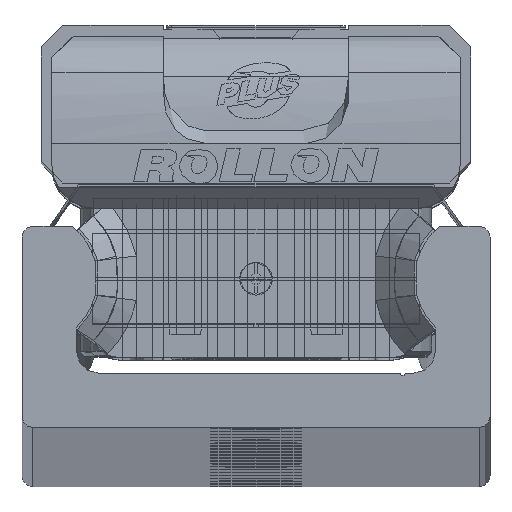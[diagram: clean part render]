
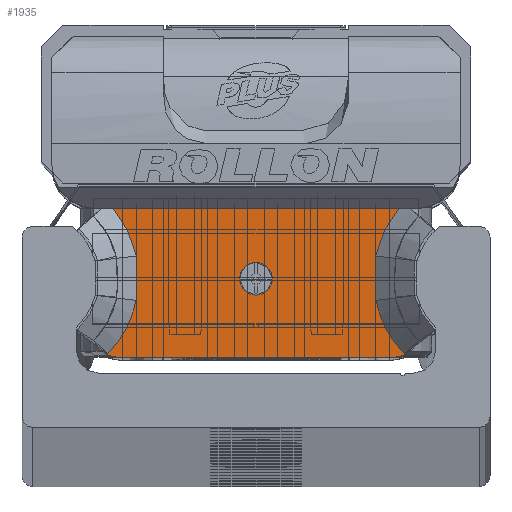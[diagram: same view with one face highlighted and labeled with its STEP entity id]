
A CAD part, top view. The second image highlights one B-rep face of the part: STEP entity #1935.
In plain terms, the highlighted planar face has unit normal (0, 0, 1) as drawn and (0, 0, -1) by its records, which use the part's own axes.
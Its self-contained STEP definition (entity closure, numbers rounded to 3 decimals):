
#1935 = ADVANCED_FACE( '', ( #4132, #4133 ), #4134, .F. );
#4132 = FACE_BOUND( '', #6686, .T. );
#4133 = FACE_OUTER_BOUND( '', #6687, .T. );
#4134 = PLANE( '', #6688 );
#6686 = EDGE_LOOP( '', ( #12005 ) );
#6687 = EDGE_LOOP( '', ( #12006, #12007, #12008, #12009, #12010, #12011, #12012, #12013, #12014, #12015, #12016, #12017 ) );
#6688 = AXIS2_PLACEMENT_3D( '', #12018, #12019, #12020 );
#12005 = ORIENTED_EDGE( '', *, *, #14206, .T. );
#12006 = ORIENTED_EDGE( '', *, *, #15600, .T. );
#12007 = ORIENTED_EDGE( '', *, *, #15612, .F. );
#12008 = ORIENTED_EDGE( '', *, *, #13959, .T. );
#12009 = ORIENTED_EDGE( '', *, *, #14477, .F. );
#12010 = ORIENTED_EDGE( '', *, *, #13852, .T. );
#12011 = ORIENTED_EDGE( '', *, *, #14278, .T. );
#12012 = ORIENTED_EDGE( '', *, *, #15613, .T. );
#12013 = ORIENTED_EDGE( '', *, *, #13868, .T. );
#12014 = ORIENTED_EDGE( '', *, *, #14532, .T. );
#12015 = ORIENTED_EDGE( '', *, *, #14589, .T. );
#12016 = ORIENTED_EDGE( '', *, *, #14108, .T. );
#12017 = ORIENTED_EDGE( '', *, *, #14178, .T. );
#12018 = CARTESIAN_POINT( '', ( 14.9, 7.35, -13.25 ) );
#12019 = DIRECTION( '', ( 0., 0., 1. ) );
#12020 = DIRECTION( '', ( 1., 0., 0. ) );
#13852 = EDGE_CURVE( '', #16362, #16456, #16458, .T. );
#13868 = EDGE_CURVE( '', #16484, #16481, #16485, .T. );
#13959 = EDGE_CURVE( '', #16644, #16642, #16645, .T. );
#14108 = EDGE_CURVE( '', #16903, #16901, #16904, .T. );
#14178 = EDGE_CURVE( '', #16901, #17023, #17025, .T. );
#14206 = EDGE_CURVE( '', #17071, #17071, #17072, .T. );
#14278 = EDGE_CURVE( '', #16456, #17183, #17185, .T. );
#14477 = EDGE_CURVE( '', #16362, #16642, #17498, .T. );
#14532 = EDGE_CURVE( '', #16481, #17582, #17584, .T. );
#14589 = EDGE_CURVE( '', #17582, #16903, #17671, .T. );
#15600 = EDGE_CURVE( '', #17023, #16338, #19078, .T. );
#15612 = EDGE_CURVE( '', #16644, #16338, #19092, .T. );
#15613 = EDGE_CURVE( '', #17183, #16484, #19093, .T. );
#16338 = VERTEX_POINT( '', #19999 );
#16362 = VERTEX_POINT( '', #20032 );
#16456 = VERTEX_POINT( '', #20151 );
#16458 = B_SPLINE_CURVE_WITH_KNOTS( '', 1, ( #20154, #20155 ), .UNSPECIFIED., .F., .F., ( 2, 2 ), ( 0., 1. ), .UNSPECIFIED. );
#16481 = VERTEX_POINT( '', #20189 );
#16484 = VERTEX_POINT( '', #20195 );
#16485 = B_SPLINE_CURVE_WITH_KNOTS( '', 2, ( #20196, #20197, #20198, #20199, #20200 ), .UNSPECIFIED., .F., .F., ( 3, 2, 3 ), ( 0., 0.5, 0.868 ), .UNSPECIFIED. );
#16642 = VERTEX_POINT( '', #20406 );
#16644 = VERTEX_POINT( '', #20409 );
#16645 = LINE( '', #20410, #20411 );
#16901 = VERTEX_POINT( '', #20728 );
#16903 = VERTEX_POINT( '', #20731 );
#16904 = B_SPLINE_CURVE_WITH_KNOTS( '', 2, ( #20732, #20733, #20734 ), .UNSPECIFIED., .F., .F., ( 3, 3 ), ( 0., 1. ), .UNSPECIFIED. );
#17023 = VERTEX_POINT( '', #20883 );
#17025 = B_SPLINE_CURVE_WITH_KNOTS( '', 2, ( #20886, #20887, #20888, #20889, #20890 ), .UNSPECIFIED., .F., .F., ( 3, 2, 3 ), ( 0., 0.5, 1. ), .UNSPECIFIED. );
#17071 = VERTEX_POINT( '', #20963 );
#17072 = CIRCLE( '', #20964, 1.5 );
#17183 = VERTEX_POINT( '', #21137 );
#17185 = B_SPLINE_CURVE_WITH_KNOTS( '', 2, ( #21140, #21141, #21142, #21143, #21144 ), .UNSPECIFIED., .F., .F., ( 3, 2, 3 ), ( 0., 0.5, 1. ), .UNSPECIFIED. );
#17498 = CIRCLE( '', #21564, 2.5 );
#17582 = VERTEX_POINT( '', #21677 );
#17584 = LINE( '', #21682, #21683 );
#17671 = B_SPLINE_CURVE_WITH_KNOTS( '', 2, ( #21798, #21799, #21800, #21801, #21802 ), .UNSPECIFIED., .F., .F., ( 3, 2, 3 ), ( 0.133, 0.5, 1. ), .UNSPECIFIED. );
#19078 = B_SPLINE_CURVE_WITH_KNOTS( '', 1, ( #23879, #23880 ), .UNSPECIFIED., .F., .F., ( 2, 2 ), ( 0., 1. ), .UNSPECIFIED. );
#19092 = CIRCLE( '', #23898, 2.5 );
#19093 = B_SPLINE_CURVE_WITH_KNOTS( '', 2, ( #23899, #23900, #23901 ), .UNSPECIFIED., .F., .F., ( 3, 3 ), ( 0., 1. ), .UNSPECIFIED. );
#19999 = CARTESIAN_POINT( '', ( 14.906, -5.717, -13.25 ) );
#20032 = CARTESIAN_POINT( '', ( -14.904, -5.718, -13.25 ) );
#20151 = CARTESIAN_POINT( '', ( -13.628, -6.965, -13.25 ) );
#20154 = CARTESIAN_POINT( '', ( -14.915, -5.713, -13.25 ) );
#20155 = CARTESIAN_POINT( '', ( -13.628, -6.965, -13.25 ) );
#20189 = CARTESIAN_POINT( '', ( -13.119, 6.4, -13.25 ) );
#20195 = CARTESIAN_POINT( '', ( -11.012, 2.045, -13.25 ) );
#20196 = CARTESIAN_POINT( '', ( -11.012, 2.045, -13.25 ) );
#20197 = CARTESIAN_POINT( '', ( -11.302, 3.432, -13.25 ) );
#20198 = CARTESIAN_POINT( '', ( -11.967, 4.685, -13.25 ) );
#20199 = CARTESIAN_POINT( '', ( -12.456, 5.606, -13.25 ) );
#20200 = CARTESIAN_POINT( '', ( -13.119, 6.4, -13.25 ) );
#20406 = CARTESIAN_POINT( '', ( -12.58, -7.3, -13.25 ) );
#20409 = CARTESIAN_POINT( '', ( 12.58, -7.3, -13.25 ) );
#20410 = CARTESIAN_POINT( '', ( 12.58, -7.3, -13.25 ) );
#20411 = VECTOR( '', #24922, 1000. );
#20728 = CARTESIAN_POINT( '', ( 11.012, -2.045, -13.25 ) );
#20731 = CARTESIAN_POINT( '', ( 11.012, 2.045, -13.25 ) );
#20732 = CARTESIAN_POINT( '', ( 11.012, 2.045, -13.25 ) );
#20733 = CARTESIAN_POINT( '', ( 10.888, 0., -13.25 ) );
#20734 = CARTESIAN_POINT( '', ( 11.012, -2.045, -13.25 ) );
#20883 = CARTESIAN_POINT( '', ( 13.628, -6.965, -13.25 ) );
#20886 = CARTESIAN_POINT( '', ( 11.012, -2.045, -13.25 ) );
#20887 = CARTESIAN_POINT( '', ( 11.301, -3.43, -13.25 ) );
#20888 = CARTESIAN_POINT( '', ( 11.972, -4.69, -13.25 ) );
#20889 = CARTESIAN_POINT( '', ( 12.642, -5.95, -13.25 ) );
#20890 = CARTESIAN_POINT( '', ( 13.628, -6.965, -13.25 ) );
#20963 = CARTESIAN_POINT( '', ( 1.5, -0.05, -13.25 ) );
#20964 = AXIS2_PLACEMENT_3D( '', #25325, #25326, #25327 );
#21137 = CARTESIAN_POINT( '', ( -11.012, -2.045, -13.25 ) );
#21140 = CARTESIAN_POINT( '', ( -13.628, -6.965, -13.25 ) );
#21141 = CARTESIAN_POINT( '', ( -12.638, -5.946, -13.25 ) );
#21142 = CARTESIAN_POINT( '', ( -11.97, -4.691, -13.25 ) );
#21143 = CARTESIAN_POINT( '', ( -11.303, -3.437, -13.25 ) );
#21144 = CARTESIAN_POINT( '', ( -11.012, -2.045, -13.25 ) );
#21564 = AXIS2_PLACEMENT_3D( '', #25659, #25660, #25661 );
#21677 = CARTESIAN_POINT( '', ( 13.12, 6.4, -13.25 ) );
#21682 = CARTESIAN_POINT( '', ( 14.9, 6.4, -13.25 ) );
#21683 = VECTOR( '', #25731, 1000. );
#21798 = CARTESIAN_POINT( '', ( 13.119, 6.4, -13.25 ) );
#21799 = CARTESIAN_POINT( '', ( 12.459, 5.608, -13.25 ) );
#21800 = CARTESIAN_POINT( '', ( 11.968, 4.684, -13.25 ) );
#21801 = CARTESIAN_POINT( '', ( 11.301, 3.427, -13.25 ) );
#21802 = CARTESIAN_POINT( '', ( 11.012, 2.045, -13.25 ) );
#23879 = CARTESIAN_POINT( '', ( 13.628, -6.965, -13.25 ) );
#23880 = CARTESIAN_POINT( '', ( 14.9, -5.728, -13.25 ) );
#23898 = AXIS2_PLACEMENT_3D( '', #27051, #27052, #27053 );
#23899 = CARTESIAN_POINT( '', ( -11.012, -2.045, -13.25 ) );
#23900 = CARTESIAN_POINT( '', ( -10.888, 0., -13.25 ) );
#23901 = CARTESIAN_POINT( '', ( -11.012, 2.045, -13.25 ) );
#24922 = DIRECTION( '', ( -1., 0., 0. ) );
#25325 = CARTESIAN_POINT( '', ( 0., -0.05, -13.25 ) );
#25326 = DIRECTION( '', ( 0., 0., 1. ) );
#25327 = DIRECTION( '', ( 1., 0., 0. ) );
#25659 = CARTESIAN_POINT( '', ( -12.58, -4.8, -13.25 ) );
#25660 = DIRECTION( '', ( 0., 0., 1. ) );
#25661 = DIRECTION( '', ( 1., 0., 0. ) );
#25731 = DIRECTION( '', ( 1., 0., 0. ) );
#27051 = CARTESIAN_POINT( '', ( 12.58, -4.8, -13.25 ) );
#27052 = DIRECTION( '', ( 0., 0., 1. ) );
#27053 = DIRECTION( '', ( 1., 0., 0. ) );
